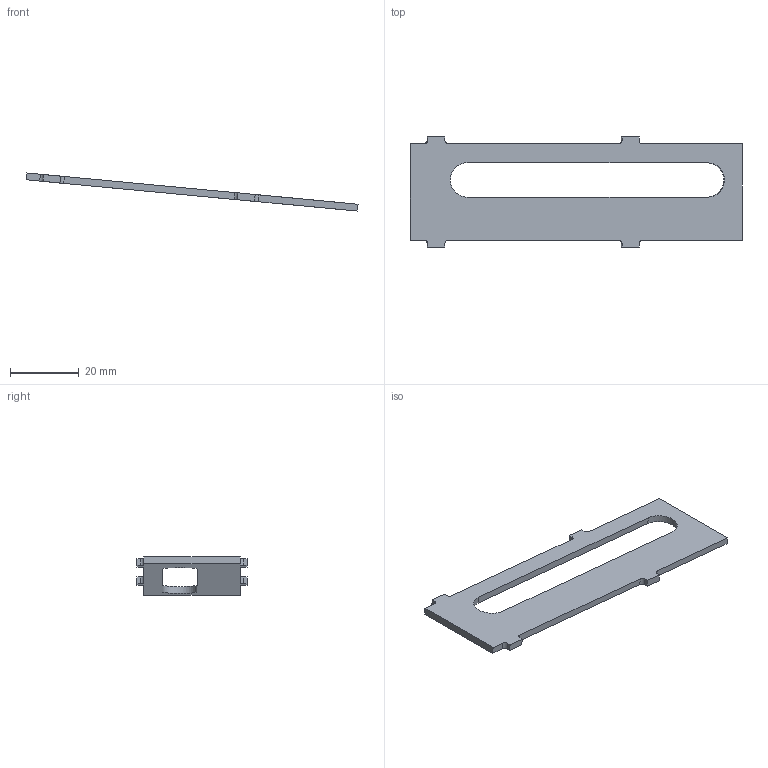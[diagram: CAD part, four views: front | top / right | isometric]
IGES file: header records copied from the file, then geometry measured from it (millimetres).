
Start section: START RECORD GO HERE.
Global section: file name: FR_10001_9 (Frame Brake).igs; native system: IBM CATIA IGES - CATIA Version 5 Release 19 ; preprocessor: CATIA Version 5 Release 19 ; author: jacqu; organization: ASUS-TUF-JACQUE; date: 20200226.092032; units: millimetre
Bounding box: 96.43 x 32 x 11.07 mm (x, y, z)
Surface area: 4806.7 mm2 (no closed solid volume)
Topology: 0 solids, 0 shells, 34 faces, 192 edges, 192 vertices
Faces by surface type: plane 24, revolution 10
